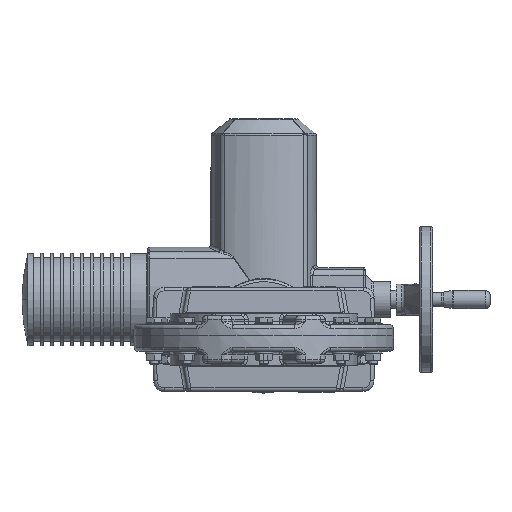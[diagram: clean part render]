
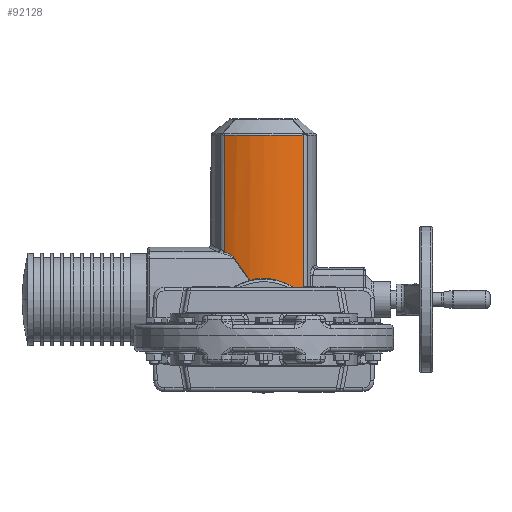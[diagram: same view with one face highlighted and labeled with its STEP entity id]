
A CAD part, front view. The second image highlights one B-rep face of the part: STEP entity #92128.
In plain terms, the highlighted cylindrical face has radius 100 mm (diameter 200 mm), a partial arc.
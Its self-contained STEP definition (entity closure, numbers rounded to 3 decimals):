
#2017 = CARTESIAN_POINT ( 'NONE',  ( -10.443, 523.52, 62.174 ) ) ;
#4516 = CARTESIAN_POINT ( 'NONE',  ( -5.794, 523.161, 62.927 ) ) ;
#5011 = CARTESIAN_POINT ( 'NONE',  ( 23.143, 525.713, 57.404 ) ) ;
#5388 = AXIS2_PLACEMENT_3D ( 'NONE', #51510, #6179, #130466 ) ;
#6179 = DIRECTION ( 'NONE',  ( 0., 0., -1. ) ) ;
#6494 = ORIENTED_EDGE ( 'NONE', *, *, #58469, .T. ) ;
#6514 = CARTESIAN_POINT ( 'NONE',  ( -32.772, 528.521, 86.153 ) ) ;
#6606 = CARTESIAN_POINT ( 'NONE',  ( 43.041, 532.737, 237.75 ) ) ;
#8016 = CARTESIAN_POINT ( 'NONE',  ( 41.482, 532.005, 45.502 ) ) ;
#9207 = B_SPLINE_CURVE_WITH_KNOTS ( 'NONE', 3,
 ( #28733, #107679, #40050, #118950, #51366, #130314, #62743, #141720, #74081, #6514, #85450, #17842 ),
 .UNSPECIFIED., .F., .F.,
 ( 4, 2, 2, 2, 2, 4 ),
 ( 0., 0.003, 0.007, 0.01, 0.012, 0.014 ),
 .UNSPECIFIED. ) ;
#13259 = CARTESIAN_POINT ( 'NONE',  ( -43.041, 532.737, 237.75 ) ) ;
#13431 = DIRECTION ( 'NONE',  ( 0., 0., -1. ) ) ;
#15860 = CARTESIAN_POINT ( 'NONE',  ( -2.243, 523.018, 63.226 ) ) ;
#16348 = CARTESIAN_POINT ( 'NONE',  ( 24.662, 526.087, 56.561 ) ) ;
#17785 = CARTESIAN_POINT ( 'NONE',  ( 37.328, 530.227, 47.213 ) ) ;
#17842 = CARTESIAN_POINT ( 'NONE',  ( -32.064, 528.28, 85.242 ) ) ;
#19373 = CARTESIAN_POINT ( 'NONE',  ( 43.041, 532.737, 44.194 ) ) ;
#19393 = ORIENTED_EDGE ( 'NONE', *, *, #91645, .T. ) ;
#19497 = VECTOR ( 'NONE', #60140, 1000. ) ;
#22959 = CYLINDRICAL_SURFACE ( 'NONE', #5388, 100. ) ;
#25986 = VERTEX_POINT ( 'NONE', #103575 ) ;
#27222 = CARTESIAN_POINT ( 'NONE',  ( 3.673, 523.04, 63.181 ) ) ;
#27714 = CARTESIAN_POINT ( 'NONE',  ( 27.641, 526.874, 54.766 ) ) ;
#27922 = ORIENTED_EDGE ( 'NONE', *, *, #87384, .T. ) ;
#28733 = CARTESIAN_POINT ( 'NONE',  ( -43.041, 532.737, 92.391 ) ) ;
#29348 = ORIENTED_EDGE ( 'NONE', *, *, #54581, .T. ) ;
#30272 = CARTESIAN_POINT ( 'NONE',  ( 37.791, 530.416, 47.097 ) ) ;
#31268 = EDGE_CURVE ( 'NONE', #93641, #85870, #106112, .T. ) ;
#33619 = FACE_OUTER_BOUND ( 'NONE', #68594, .T. ) ;
#38581 = CARTESIAN_POINT ( 'NONE',  ( 8.354, 523.343, 62.546 ) ) ;
#39061 = CARTESIAN_POINT ( 'NONE',  ( 33.093, 528.616, 50.604 ) ) ;
#40050 = CARTESIAN_POINT ( 'NONE',  ( -41.052, 531.808, 91.582 ) ) ;
#40721 = VERTEX_POINT ( 'NONE', #80628 ) ;
#47558 = CARTESIAN_POINT ( 'NONE',  ( -32.064, 528.28, 85.242 ) ) ;
#49858 = CARTESIAN_POINT ( 'NONE',  ( 11.825, 523.695, 61.802 ) ) ;
#50337 = CARTESIAN_POINT ( 'NONE',  ( 36.396, 529.858, 47.439 ) ) ;
#51081 = VERTEX_POINT ( 'NONE', #67661 ) ;
#51366 = CARTESIAN_POINT ( 'NONE',  ( -38.126, 530.548, 90.142 ) ) ;
#51510 = CARTESIAN_POINT ( 'NONE',  ( 0., 623., 237.75 ) ) ;
#52836 = EDGE_CURVE ( 'NONE', #40721, #130876, #52929, .T. ) ;
#52929 = LINE ( 'NONE', #6606, #109451 ) ;
#54581 = EDGE_CURVE ( 'NONE', #40721, #62027, #124247, .T. ) ;
#57251 = CARTESIAN_POINT ( 'NONE',  ( -43.041, 532.737, 92.391 ) ) ;
#58280 = CARTESIAN_POINT ( 'NONE',  ( -12.724, 523.787, 61.609 ) ) ;
#58469 = EDGE_CURVE ( 'NONE', #85870, #25986, #132763, .T. ) ;
#58963 = CARTESIAN_POINT ( 'NONE',  ( -14.967, 524.126, 60.881 ) ) ;
#60052 = B_SPLINE_CURVE_WITH_KNOTS ( 'NONE', 3,
 ( #30272, #97816, #64283, #143217, #75589, #8016, #86964, #19373 ),
 .UNSPECIFIED., .F., .F.,
 ( 4, 2, 2, 4 ),
 ( 0., 0.002, 0.003, 0.007 ),
 .UNSPECIFIED. ) ;
#60140 = DIRECTION ( 'NONE',  ( 0., 0., -1. ) ) ;
#61239 = CARTESIAN_POINT ( 'NONE',  ( 17.386, 524.499, 60.082 ) ) ;
#62027 = VERTEX_POINT ( 'NONE', #132473 ) ;
#62743 = CARTESIAN_POINT ( 'NONE',  ( -35.292, 529.43, 88.385 ) ) ;
#64283 = CARTESIAN_POINT ( 'NONE',  ( 38.764, 530.818, 46.82 ) ) ;
#67661 = CARTESIAN_POINT ( 'NONE',  ( -32.064, 528.28, 85.242 ) ) ;
#68594 = EDGE_LOOP ( 'NONE', ( #19393, #134903, #27922, #72961, #6494, #95887, #80650, #29348 ) ) ;
#72089 = CARTESIAN_POINT ( 'NONE',  ( -6.964, 523.236, 62.77 ) ) ;
#72586 = CARTESIAN_POINT ( 'NONE',  ( 21.604, 525.356, 58.202 ) ) ;
#72961 = ORIENTED_EDGE ( 'NONE', *, *, #31268, .T. ) ;
#74001 = CARTESIAN_POINT ( 'NONE',  ( 36.396, 529.858, 47.439 ) ) ;
#74081 = CARTESIAN_POINT ( 'NONE',  ( -33.565, 528.8, 86.957 ) ) ;
#75589 = CARTESIAN_POINT ( 'NONE',  ( 40.164, 531.419, 46.232 ) ) ;
#79560 = LINE ( 'NONE', #13259, #19497 ) ;
#80628 = CARTESIAN_POINT ( 'NONE',  ( 43.041, 532.737, 220.035 ) ) ;
#80650 = ORIENTED_EDGE ( 'NONE', *, *, #52836, .F. ) ;
#81083 = CARTESIAN_POINT ( 'NONE',  ( 0., 623., 220.035 ) ) ;
#82405 = CARTESIAN_POINT ( 'NONE',  ( 43.041, 532.737, 44.194 ) ) ;
#82722 = B_SPLINE_CURVE_WITH_KNOTS ( 'NONE', 3,
 ( #47558, #115143, #126525, #58963 ),
 .UNSPECIFIED., .F., .F.,
 ( 4, 4 ),
 ( 0., 0.03 ),
 .UNSPECIFIED. ) ;
#83491 = CARTESIAN_POINT ( 'NONE',  ( -3.436, 523.052, 63.155 ) ) ;
#83959 = CARTESIAN_POINT ( 'NONE',  ( 23.652, 525.836, 57.129 ) ) ;
#85450 = CARTESIAN_POINT ( 'NONE',  ( -32.398, 528.393, 85.723 ) ) ;
#85870 = VERTEX_POINT ( 'NONE', #109406 ) ;
#86030 = DIRECTION ( 'NONE',  ( 0., 0., -1. ) ) ;
#86964 = CARTESIAN_POINT ( 'NONE',  ( 42.296, 532.381, 44.907 ) ) ;
#87384 = EDGE_CURVE ( 'NONE', #51081, #93641, #82722, .T. ) ;
#91645 = EDGE_CURVE ( 'NONE', #62027, #130715, #79560, .T. ) ;
#92128 = ADVANCED_FACE ( 'NONE', ( #33619 ), #22959, .T. ) ;
#92384 = DIRECTION ( 'NONE',  ( 1., 0., 0. ) ) ;
#93641 = VERTEX_POINT ( 'NONE', #101630 ) ;
#94782 = CARTESIAN_POINT ( 'NONE',  ( 1.316, 522.981, 63.304 ) ) ;
#95282 = CARTESIAN_POINT ( 'NONE',  ( 25.164, 526.217, 56.268 ) ) ;
#95887 = ORIENTED_EDGE ( 'NONE', *, *, #126139, .T. ) ;
#96717 = CARTESIAN_POINT ( 'NONE',  ( 37.791, 530.416, 47.097 ) ) ;
#97816 = CARTESIAN_POINT ( 'NONE',  ( 38.283, 530.617, 46.974 ) ) ;
#101630 = CARTESIAN_POINT ( 'NONE',  ( -14.967, 524.126, 60.881 ) ) ;
#103575 = CARTESIAN_POINT ( 'NONE',  ( 37.791, 530.416, 47.097 ) ) ;
#106112 = B_SPLINE_CURVE_WITH_KNOTS ( 'NONE', 3,
 ( #139746, #58280, #2017, #72089, #4516, #83491, #15860, #94782, #27222, #106209, #38581, #117422, #49858, #128834, #61239, #140219, #72586, #5011, #83959, #16348, #95282, #27714, #106693, #39061, #117899, #50337 ),
 .UNSPECIFIED., .F., .F.,
 ( 4, 2, 2, 2, 2, 2, 2, 2, 2, 2, 2, 2, 4 ),
 ( 0., 0.007, 0.011, 0.014, 0.021, 0.025, 0.028, 0.035, 0.039, 0.041, 0.042, 0.05, 0.057 ),
 .UNSPECIFIED. ) ;
#106209 = CARTESIAN_POINT ( 'NONE',  ( 7.186, 523.252, 62.737 ) ) ;
#106693 = CARTESIAN_POINT ( 'NONE',  ( 29.519, 527.438, 53.45 ) ) ;
#107679 = CARTESIAN_POINT ( 'NONE',  ( -42.042, 532.26, 92.005 ) ) ;
#109406 = CARTESIAN_POINT ( 'NONE',  ( 36.396, 529.858, 47.439 ) ) ;
#109451 = VECTOR ( 'NONE', #86030, 1000. ) ;
#115143 = CARTESIAN_POINT ( 'NONE',  ( -26.44, 526.376, 77.158 ) ) ;
#117422 = CARTESIAN_POINT ( 'NONE',  ( 10.68, 523.565, 62.077 ) ) ;
#117899 = CARTESIAN_POINT ( 'NONE',  ( 34.788, 529.23, 49.074 ) ) ;
#118239 = AXIS2_PLACEMENT_3D ( 'NONE', #81083, #13431, #92384 ) ;
#118950 = CARTESIAN_POINT ( 'NONE',  ( -39.094, 530.952, 90.65 ) ) ;
#124247 = CIRCLE ( 'NONE', #118239, 100. ) ;
#126139 = EDGE_CURVE ( 'NONE', #25986, #130876, #60052, .T. ) ;
#126525 = CARTESIAN_POINT ( 'NONE',  ( -20.733, 524.999, 69.042 ) ) ;
#128834 = CARTESIAN_POINT ( 'NONE',  ( 15.204, 524.137, 60.862 ) ) ;
#130314 = CARTESIAN_POINT ( 'NONE',  ( -36.228, 529.787, 89.011 ) ) ;
#130406 = EDGE_CURVE ( 'NONE', #130715, #51081, #9207, .T. ) ;
#130466 = DIRECTION ( 'NONE',  ( -1., 0., 0. ) ) ;
#130715 = VERTEX_POINT ( 'NONE', #57251 ) ;
#130876 = VERTEX_POINT ( 'NONE', #82405 ) ;
#132473 = CARTESIAN_POINT ( 'NONE',  ( -43.041, 532.737, 220.035 ) ) ;
#132763 = B_SPLINE_CURVE_WITH_KNOTS ( 'NONE', 3,
 ( #74001, #141648, #17785, #96717 ),
 .UNSPECIFIED., .F., .F.,
 ( 4, 4 ),
 ( 0.008, 0.009 ),
 .UNSPECIFIED. ) ;
#134903 = ORIENTED_EDGE ( 'NONE', *, *, #130406, .T. ) ;
#139746 = CARTESIAN_POINT ( 'NONE',  ( -14.967, 524.126, 60.881 ) ) ;
#140219 = CARTESIAN_POINT ( 'NONE',  ( 20.562, 525.131, 58.699 ) ) ;
#141648 = CARTESIAN_POINT ( 'NONE',  ( 36.862, 530.041, 47.327 ) ) ;
#141720 = CARTESIAN_POINT ( 'NONE',  ( -33.985, 528.951, 87.329 ) ) ;
#143217 = CARTESIAN_POINT ( 'NONE',  ( 39.706, 531.219, 46.448 ) ) ;
